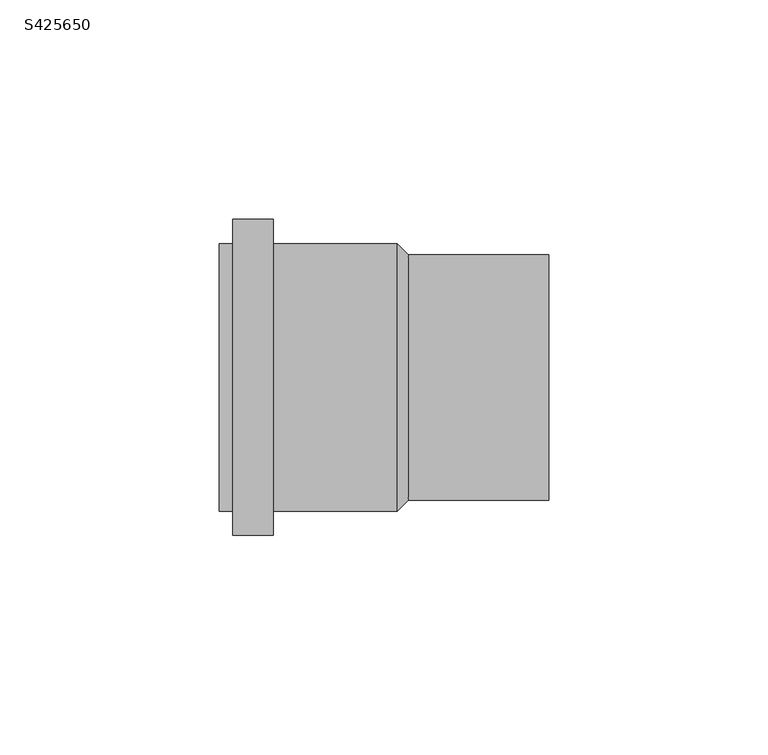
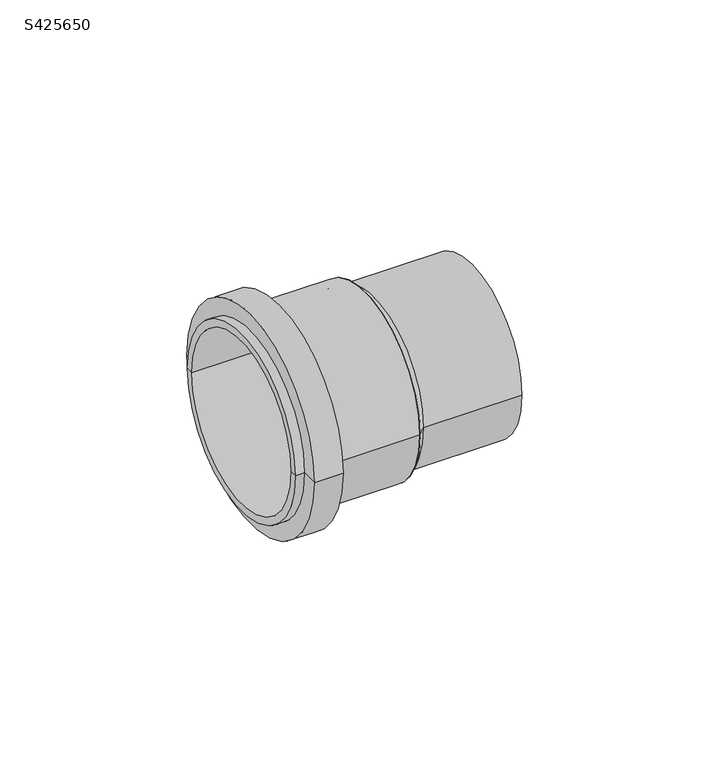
"""IFC4 building model written with IfcOpenShell, lengths in millimetres: pipe fitting geometry, PIF_HDPE PVCABS_ADAPTOR_MARLEY2 : S425650."""

from ifc_helpers import new_model, si_unit, frame, origin, place, context, project, spatial, polyline, circle_curve, source, transform, mapped, element, save
from ifc_brep_helpers import plane_surface, cylinder_surface, revolved_surface, advanced_brep


def s425650_57257eff(model_context):
    return source(origin(), model_context, "Body", "AdvancedBrep", [
        advanced_brep(
        [(3.0, -30.5, 0.0), (3.0, 30.5, 0.0), (5.5, 28.0, 0.0), (5.5, -28.0, 0.0), (3.0, 0.0, 0.0), (37.5, -28.0, 0.0), (37.5, 28.0, 0.0), (37.5, 0.0, 0.0)],
        [
            (0, 1, circle_curve(frame((3.0, 0.0, 0.0), z_axis=(1.0, 0.0, 0.0), x_axis=(0.0, 1.0, 0.0)), 30.5)),
            (1, 2),
            (2, 3, circle_curve(frame((5.5, 0.0, 0.0), z_axis=(-1.0, 0.0, 0.0), x_axis=(0.0, 1.0, 0.0)), 28.0)),
            (3, 0),
            (1, 0, circle_curve(frame((3.0, 0.0, 0.0), z_axis=(1.0, 0.0, 0.0), x_axis=(0.0, 1.0, 0.0)), 30.5)),
            (3, 2, circle_curve(frame((5.5, 0.0, 0.0), z_axis=(-1.0, 0.0, 0.0), x_axis=(0.0, 1.0, 0.0)), 28.0)),
            (4, 1),
            (0, 4),
            (5, 6, circle_curve(frame((37.5, 0.0, 0.0), z_axis=(1.0, 0.0, 0.0), x_axis=(0.0, 1.0, 0.0)), 28.0)),
            (6, 7),
            (7, 5),
            (6, 5, circle_curve(frame((37.5, 0.0, 0.0), z_axis=(1.0, 0.0, 0.0), x_axis=(0.0, 1.0, 0.0)), 28.0)),
            (2, 6),
            (5, 3),
        ],
        [
            revolved_surface(polyline([(5.5, 28.0, 0.0), (3.0, 30.5, 0.0)]), (46.6540294, 0.0, 0.0), (-1.0, 0.0, 0.0)),
            plane_surface(frame((3.0, 0.0, 0.0), z_axis=(-1.0, 0.0, 0.0), x_axis=(0.0, 1.0, 0.0))),
            plane_surface(frame((37.5, 0.0, 0.0), z_axis=(1.0, 0.0, 0.0), x_axis=(0.0, 1.0, 0.0))),
            cylinder_surface(frame((46.6540294, 0.0, 0.0), z_axis=(-1.0, 0.0, 0.0), x_axis=(0.0, 1.0, 0.0)), 28.0),
        ],
        [
            (0, [[1, 2, 3, 4]]),
            (0, [[5, -4, 6, -2]]),
            (1, [[7, -1, 8]]),
            (1, [[-8, -5, -7]]),
            (2, [[9, 10, 11]]),
            (2, [[12, -11, -10]]),
            (3, [[-3, 13, -9, 14]]),
            (3, [[-6, -14, -12, -13]]),
        ],
    ),
        advanced_brep(
        [(0.0, -28.0, 0.0), (0.0, 28.0, 0.0), (-37.5, 28.0, 0.0), (-37.5, -28.0, 0.0), (0.0, 0.0, 0.0), (3.0, -30.5, 0.0), (3.0, 30.5, 0.0), (3.0, 0.0, 0.0), (-25.2711836, -30.5, 0.0), (-25.2711836, 30.5, 0.0), (-25.2711836, -36.0, 0.0), (-25.2711836, 36.0, 0.0), (-34.5, -36.0, 0.0), (-34.5, 36.0, 0.0), (-34.5, -30.5, 0.0), (-34.5, 30.5, 0.0), (-37.5, -30.5, 0.0), (-37.5, 30.5, 0.0)],
        [
            (0, 1, circle_curve(frame((0.0, 0.0, 0.0), z_axis=(1.0, 0.0, 0.0), x_axis=(0.0, 1.0, 0.0)), 28.0)),
            (1, 2),
            (2, 3, circle_curve(frame((-37.5, 0.0, 0.0), z_axis=(-1.0, 0.0, 0.0), x_axis=(0.0, 1.0, 0.0)), 28.0)),
            (3, 0),
            (1, 0, circle_curve(frame((0.0, 0.0, 0.0), z_axis=(1.0, 0.0, 0.0), x_axis=(0.0, 1.0, 0.0)), 28.0)),
            (3, 2, circle_curve(frame((-37.5, 0.0, 0.0), z_axis=(-1.0, 0.0, 0.0), x_axis=(0.0, 1.0, 0.0)), 28.0)),
            (4, 1),
            (0, 4),
            (5, 6, circle_curve(frame((3.0, 0.0, 0.0), z_axis=(1.0, 0.0, 0.0), x_axis=(0.0, 1.0, 0.0)), 30.5)),
            (6, 7),
            (7, 5),
            (6, 5, circle_curve(frame((3.0, 0.0, 0.0), z_axis=(1.0, 0.0, 0.0), x_axis=(0.0, 1.0, 0.0)), 30.5)),
            (8, 9, circle_curve(frame((-25.2711836, 0.0, 0.0), z_axis=(1.0, 0.0, 0.0), x_axis=(0.0, 1.0, 0.0)), 30.5)),
            (9, 6),
            (5, 8),
            (9, 8, circle_curve(frame((-25.2711836, 0.0, 0.0), z_axis=(1.0, 0.0, 0.0), x_axis=(0.0, 1.0, 0.0)), 30.5)),
            (10, 11, circle_curve(frame((-25.2711836, 0.0, 0.0), z_axis=(1.0, 0.0, 0.0), x_axis=(0.0, 1.0, 0.0)), 36.0)),
            (11, 9),
            (8, 10),
            (11, 10, circle_curve(frame((-25.2711836, 0.0, 0.0), z_axis=(1.0, 0.0, 0.0), x_axis=(0.0, 1.0, 0.0)), 36.0)),
            (12, 13, circle_curve(frame((-34.5, 0.0, 0.0), z_axis=(1.0, 0.0, 0.0), x_axis=(0.0, 1.0, 0.0)), 36.0)),
            (13, 11),
            (10, 12),
            (13, 12, circle_curve(frame((-34.5, 0.0, 0.0), z_axis=(1.0, 0.0, 0.0), x_axis=(0.0, 1.0, 0.0)), 36.0)),
            (14, 15, circle_curve(frame((-34.5, 0.0, 0.0), z_axis=(1.0, 0.0, 0.0), x_axis=(0.0, 1.0, 0.0)), 30.5)),
            (15, 13),
            (12, 14),
            (15, 14, circle_curve(frame((-34.5, 0.0, 0.0), z_axis=(1.0, 0.0, 0.0), x_axis=(0.0, 1.0, 0.0)), 30.5)),
            (16, 17, circle_curve(frame((-37.5, 0.0, 0.0), z_axis=(1.0, 0.0, 0.0), x_axis=(0.0, 1.0, 0.0)), 30.5)),
            (17, 15),
            (14, 16),
            (17, 16, circle_curve(frame((-37.5, 0.0, 0.0), z_axis=(1.0, 0.0, 0.0), x_axis=(0.0, 1.0, 0.0)), 30.5)),
            (2, 17),
            (16, 3),
        ],
        [
            revolved_surface(polyline([(-37.5, 28.0, 0.0), (0.0, 28.0, 0.0)]), (-44.3991004, 0.0, 0.0), (-1.0, 0.0, 0.0)),
            plane_surface(frame((0.0, 0.0, 0.0), z_axis=(-1.0, 0.0, 0.0), x_axis=(0.0, 1.0, 0.0))),
            plane_surface(frame((3.0, 0.0, 0.0), z_axis=(1.0, 0.0, 0.0), x_axis=(0.0, 1.0, 0.0))),
            cylinder_surface(frame((-44.3991004, 0.0, 0.0), z_axis=(-1.0, 0.0, 0.0), x_axis=(0.0, 1.0, 0.0)), 30.5),
            plane_surface(frame((-25.2711836, 0.0, 0.0), z_axis=(1.0, 0.0, 0.0), x_axis=(0.0, 1.0, 0.0))),
            cylinder_surface(frame((-44.3991004, 0.0, 0.0), z_axis=(-1.0, 0.0, 0.0), x_axis=(0.0, 1.0, 0.0)), 36.0),
            plane_surface(frame((-34.5, 0.0, 0.0), z_axis=(-1.0, 0.0, 0.0), x_axis=(0.0, 1.0, 0.0))),
            plane_surface(frame((-37.5, 0.0, 0.0), z_axis=(-1.0, 0.0, 0.0), x_axis=(0.0, 1.0, 0.0))),
        ],
        [
            (0, [[1, 2, 3, 4]]),
            (0, [[5, -4, 6, -2]]),
            (1, [[7, -1, 8]]),
            (1, [[-8, -5, -7]]),
            (2, [[9, 10, 11]]),
            (2, [[12, -11, -10]]),
            (3, [[13, 14, -9, 15]]),
            (3, [[16, -15, -12, -14]]),
            (4, [[17, 18, -13, 19]]),
            (4, [[20, -19, -16, -18]]),
            (5, [[21, 22, -17, 23]]),
            (5, [[24, -23, -20, -22]]),
            (6, [[25, 26, -21, 27]]),
            (6, [[28, -27, -24, -26]]),
            (3, [[29, 30, -25, 31]]),
            (3, [[32, -31, -28, -30]]),
            (7, [[-3, 33, -29, 34]]),
            (7, [[-6, -34, -32, -33]]),
        ],
    ),
    ])


if __name__ == "__main__":
    model = new_model("IFC4")
    model_context = context("Model", 3, world=origin())
    ifc_project = project(units=[si_unit("LENGTHUNIT", "METRE", prefix="MILLI")], contexts=[model_context])
    site = spatial("IfcSite", under=ifc_project)
    building = spatial("IfcBuilding", under=site)
    placement = place(None, origin())
    s425650_shape = s425650_57257eff(model_context)
    element("IfcPipeFitting", 1, ObjectType="PIF_HDPE PVCABS_ADAPTOR_MARLEY2 : S425650", at=placement, inside=building, context=model_context, shape_type="MappedRepresentation", body=[
        mapped(s425650_shape, transform((0.0, 0.0, 0.0), x_axis=(1.0, 0.0, 0.0), y_axis=(0.0, 1.0, 0.0), z_axis=(0.0, 0.0, 1.0))),
    ])
    save(model, "model.ifc")
